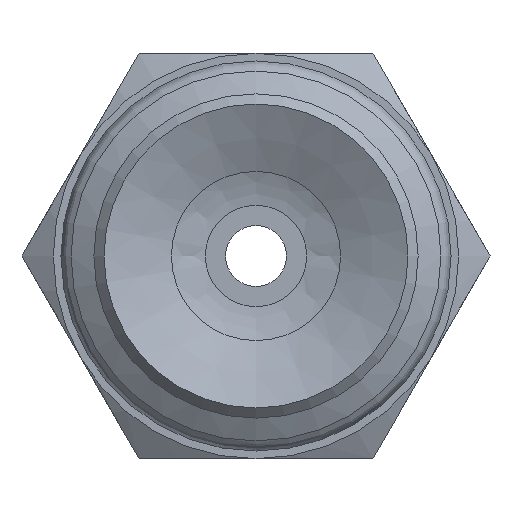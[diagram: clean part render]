
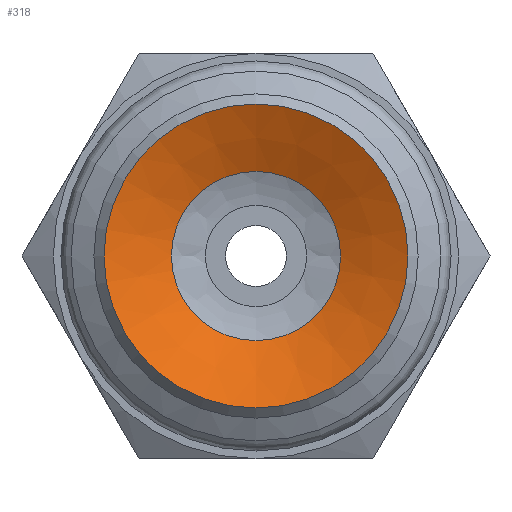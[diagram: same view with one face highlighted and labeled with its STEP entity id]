
A CAD part, front view. The second image highlights one B-rep face of the part: STEP entity #318.
In plain terms, the highlighted conical face has half-angle 64.998 degrees and reference radius 1.285 mm.
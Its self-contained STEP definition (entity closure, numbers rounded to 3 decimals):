
#318=ADVANCED_FACE('',(#460,#461),#462,.F.);
#460=FACE_BOUND('',#611,.T.);
#461=FACE_OUTER_BOUND('',#612,.T.);
#462=CONICAL_SURFACE('',#613,1.285,1.134);
#611=EDGE_LOOP('',(#939));
#612=EDGE_LOOP('',(#940));
#613=AXIS2_PLACEMENT_3D('',#941,#942,#943);
#939=ORIENTED_EDGE('',*,*,#1031,.T.);
#940=ORIENTED_EDGE('',*,*,#1019,.T.);
#941=CARTESIAN_POINT('',(0.0,0.8,0.0));
#942=DIRECTION('',(-0.0,-1.0,0.));
#943=DIRECTION('',(0.0,0.,-1.0));
#1019=EDGE_CURVE('',#1136,#1136,#1137,.T.);
#1031=EDGE_CURVE('',#1160,#1160,#1161,.T.);
#1136=VERTEX_POINT('',#1302);
#1137=CIRCLE('',#1303,3.);
#1160=VERTEX_POINT('',#1326);
#1161=CIRCLE('',#1327,1.67);
#1302=CARTESIAN_POINT('',(0.0,0.,-3.));
#1303=AXIS2_PLACEMENT_3D('',#1442,#1443,#1444);
#1326=CARTESIAN_POINT('',(0.0,0.62,-1.67));
#1327=AXIS2_PLACEMENT_3D('',#1478,#1479,#1480);
#1442=CARTESIAN_POINT('',(0.0,0.0,0.0));
#1443=DIRECTION('',(0.0,-1.0,0.));
#1444=DIRECTION('',(0.0,0.,-1.0));
#1478=CARTESIAN_POINT('',(0.0,0.62,0.0));
#1479=DIRECTION('',(0.0,1.0,0.));
#1480=DIRECTION('',(0.0,0.,-1.0));
